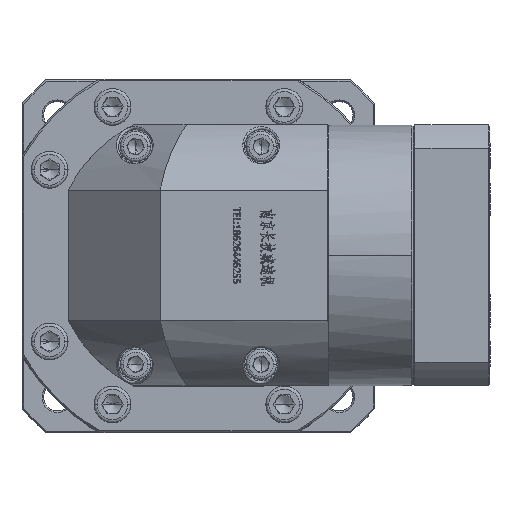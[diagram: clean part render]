
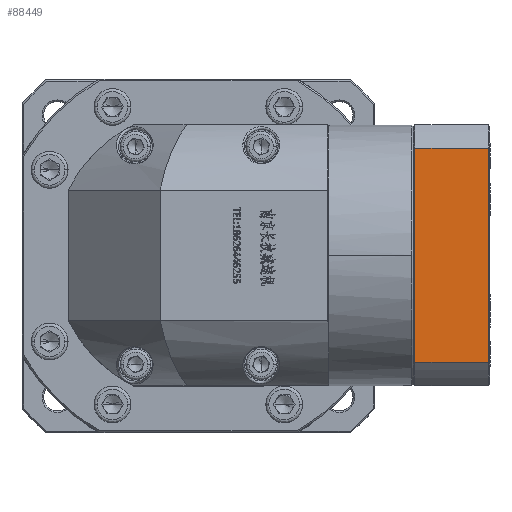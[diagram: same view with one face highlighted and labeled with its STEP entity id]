
A CAD part, top view. The second image highlights one B-rep face of the part: STEP entity #88449.
In plain terms, the highlighted planar face has unit normal (0, 0, 1).
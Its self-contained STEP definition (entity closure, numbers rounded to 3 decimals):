
#4952 = VERTEX_POINT ( 'NONE', #156140 ) ;
#5113 = ORIENTED_EDGE ( 'NONE', *, *, #20063, .F. ) ;
#9426 = VERTEX_POINT ( 'NONE', #111428 ) ;
#12951 = VECTOR ( 'NONE', #37029, 1000. ) ;
#20063 = EDGE_CURVE ( 'NONE', #35987, #65484, #183712, .T. ) ;
#22695 = CARTESIAN_POINT ( 'NONE',  ( 87.864, 126.922, 64.57 ) ) ;
#23157 = EDGE_CURVE ( 'NONE', #35987, #4952, #126459, .T. ) ;
#31865 = VECTOR ( 'NONE', #147995, 1000. ) ;
#32649 = ORIENTED_EDGE ( 'NONE', *, *, #23157, .T. ) ;
#35987 = VERTEX_POINT ( 'NONE', #180304 ) ;
#37029 = DIRECTION ( 'NONE',  ( 0., -1., 0. ) ) ;
#37058 = VECTOR ( 'NONE', #43579, 1000. ) ;
#43579 = DIRECTION ( 'NONE',  ( 1., 0., 0. ) ) ;
#44978 = LINE ( 'NONE', #148032, #153982 ) ;
#51441 = EDGE_LOOP ( 'NONE', ( #161876, #5113, #32649, #67216 ) ) ;
#65484 = VERTEX_POINT ( 'NONE', #104577 ) ;
#67216 = ORIENTED_EDGE ( 'NONE', *, *, #109910, .F. ) ;
#69750 = LINE ( 'NONE', #105780, #31865 ) ;
#75342 = DIRECTION ( 'NONE',  ( 0., 0., -1. ) ) ;
#88449 = ADVANCED_FACE ( 'NONE', ( #159952 ), #103336, .F. ) ;
#103336 = PLANE ( 'NONE',  #162957 ) ;
#104577 = CARTESIAN_POINT ( 'NONE',  ( 111.864, 196.744, 64.57 ) ) ;
#105780 = CARTESIAN_POINT ( 'NONE',  ( 111.864, 126.922, 64.57 ) ) ;
#109910 = EDGE_CURVE ( 'NONE', #9426, #4952, #44978, .T. ) ;
#111428 = CARTESIAN_POINT ( 'NONE',  ( 111.864, 126.922, 64.57 ) ) ;
#114457 = CARTESIAN_POINT ( 'NONE',  ( 112.364, 196.744, 64.57 ) ) ;
#126459 = LINE ( 'NONE', #22695, #12951 ) ;
#137041 = EDGE_CURVE ( 'NONE', #65484, #9426, #69750, .T. ) ;
#147410 = DIRECTION ( 'NONE',  ( -1., 0., 0. ) ) ;
#147995 = DIRECTION ( 'NONE',  ( 0., -1., 0. ) ) ;
#148032 = CARTESIAN_POINT ( 'NONE',  ( 112.364, 126.922, 64.57 ) ) ;
#153982 = VECTOR ( 'NONE', #147410, 1000. ) ;
#156140 = CARTESIAN_POINT ( 'NONE',  ( 87.864, 126.922, 64.57 ) ) ;
#159952 = FACE_OUTER_BOUND ( 'NONE', #51441, .T. ) ;
#160454 = CARTESIAN_POINT ( 'NONE',  ( 112.364, 126.922, 64.57 ) ) ;
#161876 = ORIENTED_EDGE ( 'NONE', *, *, #137041, .F. ) ;
#162957 = AXIS2_PLACEMENT_3D ( 'NONE', #160454, #75342, #174675 ) ;
#174675 = DIRECTION ( 'NONE',  ( -1., 0., 0. ) ) ;
#180304 = CARTESIAN_POINT ( 'NONE',  ( 87.864, 196.744, 64.57 ) ) ;
#183712 = LINE ( 'NONE', #114457, #37058 ) ;
